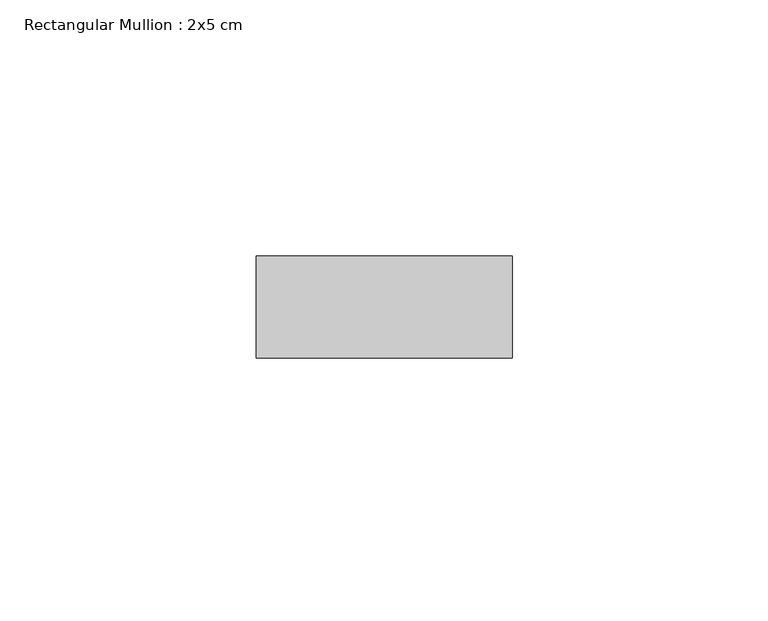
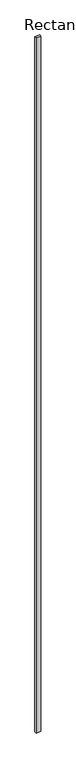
"""IFC4 building model written with IfcOpenShell, lengths in millimetres: member geometry, Rectangular Mullion : 2x5 cm."""

from ifc_helpers import new_model, si_unit, frame, origin, place, context, project, spatial, polyline, outline, extrude, source, transform, mapped, element, save


def rectangular_mullion_2x5_cm_11ee61dc(model_context):
    return source(origin(), model_context, "Body", "SweptSolid", [
        extrude(outline(polyline([(50.0, 20.0), (50.0, 0.0), (0.0, 0.0), (0.0, 20.0), (50.0, 20.0)])), frame((0.0, 0.0, -7615.5641652), z_axis=(0.0, 0.0, 1.0), x_axis=(1.0, 0.0, 0.0)), (0.0, 0.0, 1.0), 7615.5641652),
    ])


if __name__ == "__main__":
    model = new_model("IFC4")
    model_context = context("Model", 3, world=origin())
    ifc_project = project(units=[si_unit("LENGTHUNIT", "METRE", prefix="MILLI")], contexts=[model_context])
    site = spatial("IfcSite", under=ifc_project)
    building = spatial("IfcBuilding", under=site)
    placement = place(None, origin())
    rectangular_mullion_2x5_cm_shape = rectangular_mullion_2x5_cm_11ee61dc(model_context)
    element("IfcMember", 1, ObjectType="Rectangular Mullion : 2x5 cm", at=placement, inside=building, context=model_context, shape_type="MappedRepresentation", body=[
        mapped(rectangular_mullion_2x5_cm_shape, transform((0.0, 0.0, 0.0), x_axis=(1.0, 0.0, 0.0), y_axis=(0.0, 1.0, 0.0), z_axis=(0.0, 0.0, 1.0))),
    ])
    save(model, "model.ifc")
